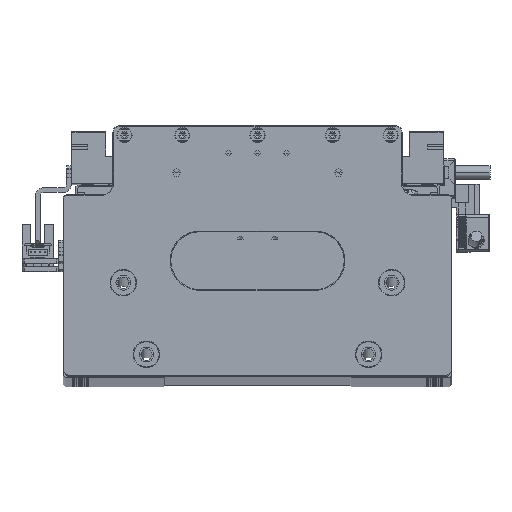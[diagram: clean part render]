
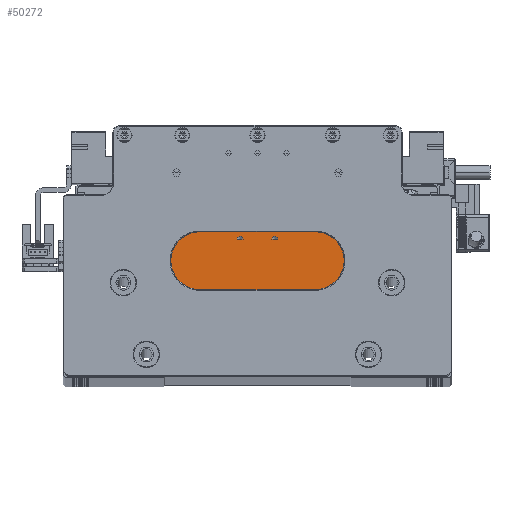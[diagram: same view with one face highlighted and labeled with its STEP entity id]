
A CAD part, top view. The second image highlights one B-rep face of the part: STEP entity #50272.
In plain terms, the highlighted planar face has unit normal (0, 0, 1).
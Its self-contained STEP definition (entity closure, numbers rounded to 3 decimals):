
#337 = CARTESIAN_POINT ( 'NONE',  ( 0., 61.2, 90. ) ) ;
#1888 = EDGE_CURVE ( 'NONE', #101511, #137944, #13915, .T. ) ;
#4370 = ORIENTED_EDGE ( 'NONE', *, *, #67017, .T. ) ;
#5682 = VERTEX_POINT ( 'NONE', #130989 ) ;
#5817 = FACE_BOUND ( 'NONE', #95817, .T. ) ;
#8901 = VECTOR ( 'NONE', #22872, 1000. ) ;
#9417 = CARTESIAN_POINT ( 'NONE',  ( -6.25, 61.2, 90. ) ) ;
#11560 = ORIENTED_EDGE ( 'NONE', *, *, #30997, .T. ) ;
#12732 = CARTESIAN_POINT ( 'NONE',  ( -45., 61.2, 90. ) ) ;
#13915 = LINE ( 'NONE', #98021, #36596 ) ;
#17888 = ORIENTED_EDGE ( 'NONE', *, *, #62518, .T. ) ;
#18253 = CARTESIAN_POINT ( 'NONE',  ( 33.5, 69.2, 90. ) ) ;
#19257 = DIRECTION ( 'NONE',  ( 0., -1., 0. ) ) ;
#19497 = CARTESIAN_POINT ( 'NONE',  ( 0., 69.2, 90. ) ) ;
#19799 = VERTEX_POINT ( 'NONE', #122290 ) ;
#20482 = VERTEX_POINT ( 'NONE', #93689 ) ;
#22269 = EDGE_CURVE ( 'NONE', #114794, #19799, #142743, .T. ) ;
#22706 = VECTOR ( 'NONE', #19257, 1000. ) ;
#22810 = VECTOR ( 'NONE', #128662, 1000. ) ;
#22872 = DIRECTION ( 'NONE',  ( -1., 0., 0. ) ) ;
#23487 = ORIENTED_EDGE ( 'NONE', *, *, #113217, .F. ) ;
#26423 = CIRCLE ( 'NONE', #115600, 1.25 ) ;
#26576 = LINE ( 'NONE', #55991, #82591 ) ;
#27680 = VECTOR ( 'NONE', #49614, 1000. ) ;
#29224 = EDGE_CURVE ( 'NONE', #19799, #114794, #127822, .T. ) ;
#29453 = DIRECTION ( 'NONE',  ( 0., 1., 0. ) ) ;
#30732 = DIRECTION ( 'NONE',  ( 0., 0., 1. ) ) ;
#30997 = EDGE_CURVE ( 'NONE', #66005, #20482, #116867, .T. ) ;
#32133 = LINE ( 'NONE', #12732, #121271 ) ;
#35293 = AXIS2_PLACEMENT_3D ( 'NONE', #41769, #119950, #53047 ) ;
#36596 = VECTOR ( 'NONE', #98974, 1000. ) ;
#38330 = CARTESIAN_POINT ( 'NONE',  ( 0., 61.2, 90. ) ) ;
#39730 = CARTESIAN_POINT ( 'NONE',  ( -45., 69.2, 90. ) ) ;
#40710 = CARTESIAN_POINT ( 'NONE',  ( 7.5, 61.2, 90. ) ) ;
#41385 = EDGE_CURVE ( 'NONE', #139798, #91444, #54206, .T. ) ;
#41769 = CARTESIAN_POINT ( 'NONE',  ( -7.5, 61.2, 90. ) ) ;
#45168 = ORIENTED_EDGE ( 'NONE', *, *, #29224, .T. ) ;
#49013 = EDGE_CURVE ( 'NONE', #20482, #53024, #59617, .T. ) ;
#49614 = DIRECTION ( 'NONE',  ( -1., 0., 0. ) ) ;
#50272 = ADVANCED_FACE ( 'NONE', ( #61792, #5817, #121184 ), #86457, .T. ) ;
#51997 = DIRECTION ( 'NONE',  ( 1., 0., 0. ) ) ;
#52969 = ORIENTED_EDGE ( 'NONE', *, *, #63803, .F. ) ;
#53024 = VERTEX_POINT ( 'NONE', #87358 ) ;
#53047 = DIRECTION ( 'NONE',  ( 1., 0., 0. ) ) ;
#54206 = LINE ( 'NONE', #337, #143338 ) ;
#55991 = CARTESIAN_POINT ( 'NONE',  ( -33.5, 69.2, 90. ) ) ;
#59230 = CARTESIAN_POINT ( 'NONE',  ( 45., 29., 90. ) ) ;
#59617 = LINE ( 'NONE', #39730, #22810 ) ;
#61792 = FACE_OUTER_BOUND ( 'NONE', #128549, .T. ) ;
#62518 = EDGE_CURVE ( 'NONE', #5682, #108633, #26423, .T. ) ;
#63803 = EDGE_CURVE ( 'NONE', #139798, #131336, #108335, .T. ) ;
#66005 = VERTEX_POINT ( 'NONE', #144834 ) ;
#67017 = EDGE_CURVE ( 'NONE', #108633, #5682, #32133, .T. ) ;
#67219 = DIRECTION ( 'NONE',  ( 0., -1., 0. ) ) ;
#70428 = ORIENTED_EDGE ( 'NONE', *, *, #1888, .T. ) ;
#72216 = ORIENTED_EDGE ( 'NONE', *, *, #114029, .T. ) ;
#79656 = DIRECTION ( 'NONE',  ( -1., 0., 0. ) ) ;
#80664 = DIRECTION ( 'NONE',  ( -1., 0., 0. ) ) ;
#82591 = VECTOR ( 'NONE', #67219, 1000. ) ;
#83665 = EDGE_CURVE ( 'NONE', #137944, #66005, #26576, .T. ) ;
#86212 = CARTESIAN_POINT ( 'NONE',  ( 45., 61.2, 90. ) ) ;
#86457 = PLANE ( 'NONE',  #140621 ) ;
#87358 = CARTESIAN_POINT ( 'NONE',  ( -45., 29., 90. ) ) ;
#89269 = DIRECTION ( 'NONE',  ( -1., 0., 0. ) ) ;
#91444 = VERTEX_POINT ( 'NONE', #116842 ) ;
#92046 = CARTESIAN_POINT ( 'NONE',  ( 33.5, 69., 90. ) ) ;
#92548 = VECTOR ( 'NONE', #29453, 1000. ) ;
#93689 = CARTESIAN_POINT ( 'NONE',  ( -45., 61.2, 90. ) ) ;
#94491 = LINE ( 'NONE', #100984, #8901 ) ;
#95817 = EDGE_LOOP ( 'NONE', ( #45168, #104784 ) ) ;
#98021 = CARTESIAN_POINT ( 'NONE',  ( 0., 69., 90. ) ) ;
#98974 = DIRECTION ( 'NONE',  ( -1., 0., 0. ) ) ;
#99286 = ORIENTED_EDGE ( 'NONE', *, *, #83665, .T. ) ;
#100984 = CARTESIAN_POINT ( 'NONE',  ( -45., 29., 90. ) ) ;
#101511 = VERTEX_POINT ( 'NONE', #92046 ) ;
#102603 = CARTESIAN_POINT ( 'NONE',  ( -45., 61.2, 90. ) ) ;
#103061 = EDGE_LOOP ( 'NONE', ( #17888, #4370 ) ) ;
#103445 = ORIENTED_EDGE ( 'NONE', *, *, #41385, .T. ) ;
#104784 = ORIENTED_EDGE ( 'NONE', *, *, #22269, .T. ) ;
#108335 = LINE ( 'NONE', #86212, #22706 ) ;
#108633 = VERTEX_POINT ( 'NONE', #109939 ) ;
#108877 = DIRECTION ( 'NONE',  ( 1., 0., 0. ) ) ;
#109939 = CARTESIAN_POINT ( 'NONE',  ( 8.75, 61.2, 90. ) ) ;
#111552 = CARTESIAN_POINT ( 'NONE',  ( -33.5, 69., 90. ) ) ;
#113069 = VECTOR ( 'NONE', #80664, 1000. ) ;
#113217 = EDGE_CURVE ( 'NONE', #131336, #53024, #94491, .T. ) ;
#114029 = EDGE_CURVE ( 'NONE', #91444, #101511, #122324, .T. ) ;
#114794 = VERTEX_POINT ( 'NONE', #9417 ) ;
#115600 = AXIS2_PLACEMENT_3D ( 'NONE', #40710, #118876, #51997 ) ;
#116842 = CARTESIAN_POINT ( 'NONE',  ( 33.5, 61.2, 90. ) ) ;
#116867 = LINE ( 'NONE', #38330, #27680 ) ;
#118876 = DIRECTION ( 'NONE',  ( 0., 0., -1. ) ) ;
#119950 = DIRECTION ( 'NONE',  ( 0., 0., -1. ) ) ;
#121184 = FACE_BOUND ( 'NONE', #103061, .T. ) ;
#121271 = VECTOR ( 'NONE', #79656, 1000. ) ;
#122290 = CARTESIAN_POINT ( 'NONE',  ( -8.75, 61.2, 90. ) ) ;
#122324 = LINE ( 'NONE', #18253, #92548 ) ;
#124652 = CARTESIAN_POINT ( 'NONE',  ( 45., 61.2, 90. ) ) ;
#127822 = CIRCLE ( 'NONE', #35293, 1.25 ) ;
#128549 = EDGE_LOOP ( 'NONE', ( #52969, #103445, #72216, #70428, #99286, #11560, #135937, #23487 ) ) ;
#128662 = DIRECTION ( 'NONE',  ( 0., -1., 0. ) ) ;
#130989 = CARTESIAN_POINT ( 'NONE',  ( 6.25, 61.2, 90. ) ) ;
#131336 = VERTEX_POINT ( 'NONE', #59230 ) ;
#135937 = ORIENTED_EDGE ( 'NONE', *, *, #49013, .T. ) ;
#137944 = VERTEX_POINT ( 'NONE', #111552 ) ;
#139798 = VERTEX_POINT ( 'NONE', #124652 ) ;
#140621 = AXIS2_PLACEMENT_3D ( 'NONE', #19497, #30732, #108877 ) ;
#142743 = LINE ( 'NONE', #102603, #113069 ) ;
#143338 = VECTOR ( 'NONE', #89269, 1000. ) ;
#144834 = CARTESIAN_POINT ( 'NONE',  ( -33.5, 61.2, 90. ) ) ;
